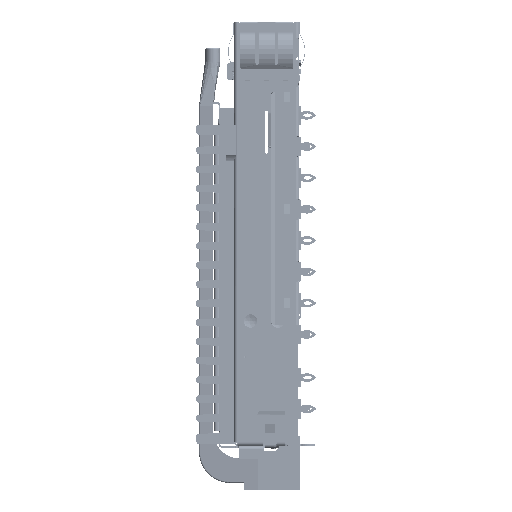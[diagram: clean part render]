
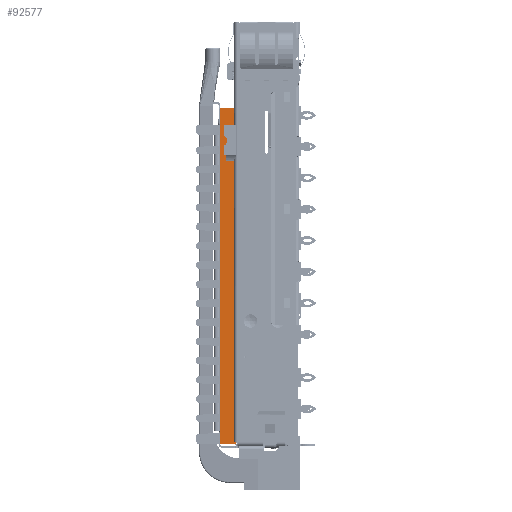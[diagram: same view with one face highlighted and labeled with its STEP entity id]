
A CAD part, left-side view. The second image highlights one B-rep face of the part: STEP entity #92577.
In plain terms, the highlighted planar face has unit normal (-1, 0, 0).
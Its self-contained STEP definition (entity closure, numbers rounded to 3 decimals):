
#83165=CIRCLE('',#296339,0.3);
#83166=CIRCLE('',#296340,0.765);
#92577=ADVANCED_FACE('',(#111768),#104708,.F.);
#104708=PLANE('',#296341);
#111768=FACE_OUTER_BOUND('',#124013,.T.);
#124013=EDGE_LOOP('',(#138685,#138686,#138687,#138688,#138689,#138690,#138691,
#138692,#138693,#138694,#138695,#138696,#138697,#138698));
#138685=ORIENTED_EDGE('',*,*,#223112,.F.);
#138686=ORIENTED_EDGE('',*,*,#223102,.F.);
#138687=ORIENTED_EDGE('',*,*,#223113,.F.);
#138688=ORIENTED_EDGE('',*,*,#223057,.F.);
#138689=ORIENTED_EDGE('',*,*,#222540,.T.);
#138690=ORIENTED_EDGE('',*,*,#223114,.T.);
#138691=ORIENTED_EDGE('',*,*,#223115,.T.);
#138692=ORIENTED_EDGE('',*,*,#223106,.F.);
#138693=ORIENTED_EDGE('',*,*,#223116,.F.);
#138694=ORIENTED_EDGE('',*,*,#223117,.F.);
#138695=ORIENTED_EDGE('',*,*,#223118,.F.);
#138696=ORIENTED_EDGE('',*,*,#223119,.F.);
#138697=ORIENTED_EDGE('',*,*,#223120,.F.);
#138698=ORIENTED_EDGE('',*,*,#223121,.F.);
#202494=VERTEX_POINT('',#384094);
#202495=VERTEX_POINT('',#384096);
#203001=VERTEX_POINT('',#385179);
#203045=VERTEX_POINT('',#385297);
#203046=VERTEX_POINT('',#385298);
#203049=VERTEX_POINT('',#385313);
#203050=VERTEX_POINT('',#385315);
#203055=VERTEX_POINT('',#385327);
#203056=VERTEX_POINT('',#385330);
#203057=VERTEX_POINT('',#385333);
#203058=VERTEX_POINT('',#385335);
#203059=VERTEX_POINT('',#385337);
#203060=VERTEX_POINT('',#385339);
#203061=VERTEX_POINT('',#385341);
#222540=EDGE_CURVE('',#202495,#202494,#254589,.T.);
#223057=EDGE_CURVE('',#202495,#203001,#255055,.T.);
#223102=EDGE_CURVE('',#203045,#203046,#255082,.T.);
#223106=EDGE_CURVE('',#203049,#203050,#255084,.T.);
#223112=EDGE_CURVE('',#203046,#203055,#255087,.T.);
#223113=EDGE_CURVE('',#203001,#203045,#255088,.T.);
#223114=EDGE_CURVE('',#202494,#203056,#255089,.T.);
#223115=EDGE_CURVE('',#203056,#203050,#255090,.T.);
#223116=EDGE_CURVE('',#203057,#203049,#255091,.T.);
#223117=EDGE_CURVE('',#203058,#203057,#255092,.T.);
#223118=EDGE_CURVE('',#203059,#203058,#83165,.T.);
#223119=EDGE_CURVE('',#203060,#203059,#255093,.T.);
#223120=EDGE_CURVE('',#203061,#203060,#83166,.T.);
#223121=EDGE_CURVE('',#203055,#203061,#255094,.T.);
#254589=LINE('',#384095,#275777);
#255055=LINE('',#385178,#276243);
#255082=LINE('',#385296,#276270);
#255084=LINE('',#385314,#276272);
#255087=LINE('',#385326,#276275);
#255088=LINE('',#385328,#276276);
#255089=LINE('',#385329,#276277);
#255090=LINE('',#385331,#276278);
#255091=LINE('',#385332,#276279);
#255092=LINE('',#385334,#276280);
#255093=LINE('',#385338,#276281);
#255094=LINE('',#385342,#276282);
#275777=VECTOR('',#318912,1.);
#276243=VECTOR('',#319468,1.);
#276270=VECTOR('',#319523,1.);
#276272=VECTOR('',#319527,1.);
#276275=VECTOR('',#319538,1.);
#276276=VECTOR('',#319539,1.);
#276277=VECTOR('',#319540,1.);
#276278=VECTOR('',#319541,1.);
#276279=VECTOR('',#319542,1.);
#276280=VECTOR('',#319543,1.);
#276281=VECTOR('',#319546,1.);
#276282=VECTOR('',#319549,1.);
#296339=AXIS2_PLACEMENT_3D('',#385336,#319544,#319545);
#296340=AXIS2_PLACEMENT_3D('',#385340,#319547,#319548);
#296341=AXIS2_PLACEMENT_3D('',#385343,#319550,#319551);
#318912=DIRECTION('',(0.,-1.,0.));
#319468=DIRECTION('',(0.,0.,1.));
#319523=DIRECTION('',(0.,0.,-1.));
#319527=DIRECTION('',(0.,0.,-1.));
#319538=DIRECTION('',(0.,1.,0.));
#319539=DIRECTION('',(0.,-1.,0.));
#319540=DIRECTION('',(0.,0.,1.));
#319541=DIRECTION('',(0.,1.,0.));
#319542=DIRECTION('',(0.,-1.,0.));
#319543=DIRECTION('',(0.,0.,-1.));
#319544=DIRECTION('',(1.,0.,0.));
#319545=DIRECTION('',(0.,0.,-1.));
#319546=DIRECTION('',(0.,0.,-1.));
#319547=DIRECTION('',(1.,0.,0.));
#319548=DIRECTION('',(0.,0.,-1.));
#319549=DIRECTION('',(0.,0.,-1.));
#319550=DIRECTION('',(1.,0.,0.));
#319551=DIRECTION('',(0.,0.,-1.));
#384094=CARTESIAN_POINT('',(-37.775,-0.25,-12.6));
#384095=CARTESIAN_POINT('',(-37.775,2.,-12.6));
#384096=CARTESIAN_POINT('',(-37.775,2.,-12.6));
#385178=CARTESIAN_POINT('',(-37.775,2.,-12.685));
#385179=CARTESIAN_POINT('',(-37.775,2.,35.7));
#385296=CARTESIAN_POINT('',(-37.775,-0.023,78.213));
#385297=CARTESIAN_POINT('',(-37.775,-0.023,35.7));
#385298=CARTESIAN_POINT('',(-37.775,-0.023,33.25));
#385313=CARTESIAN_POINT('',(-37.775,-0.023,27.964));
#385314=CARTESIAN_POINT('',(-37.775,-0.023,78.213));
#385315=CARTESIAN_POINT('',(-37.775,-0.023,-12.42));
#385326=CARTESIAN_POINT('',(-37.775,2.,33.25));
#385327=CARTESIAN_POINT('',(-37.775,1.4,33.25));
#385328=CARTESIAN_POINT('',(-37.775,2.,35.7));
#385329=CARTESIAN_POINT('',(-37.775,-0.25,-12.685));
#385330=CARTESIAN_POINT('',(-37.775,-0.25,-12.42));
#385331=CARTESIAN_POINT('',(-37.775,-0.5,-12.42));
#385332=CARTESIAN_POINT('',(-37.775,-1.1,27.964));
#385333=CARTESIAN_POINT('',(-37.775,1.15,27.964));
#385334=CARTESIAN_POINT('',(-37.775,1.15,-12.685));
#385335=CARTESIAN_POINT('',(-37.775,1.15,28.672));
#385336=CARTESIAN_POINT('',(-37.775,1.45,28.672));
#385337=CARTESIAN_POINT('',(-37.775,1.4,28.967));
#385338=CARTESIAN_POINT('',(-37.775,1.4,-12.685));
#385339=CARTESIAN_POINT('',(-37.775,1.4,30.255));
#385340=CARTESIAN_POINT('',(-37.775,1.72,30.95));
#385341=CARTESIAN_POINT('',(-37.775,1.4,31.645));
#385342=CARTESIAN_POINT('',(-37.775,1.4,-12.685));
#385343=CARTESIAN_POINT('',(-37.775,2.,-12.685));
